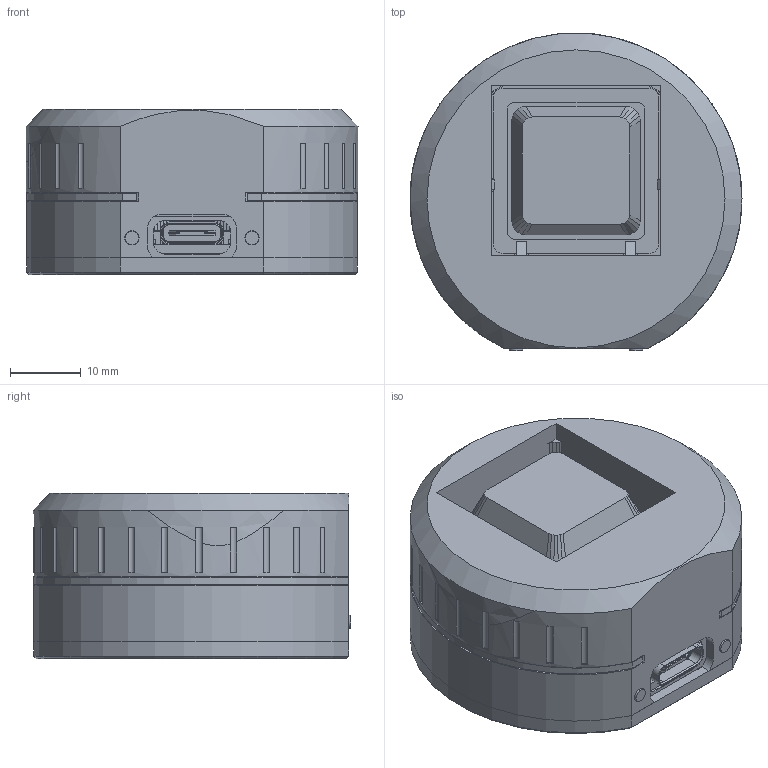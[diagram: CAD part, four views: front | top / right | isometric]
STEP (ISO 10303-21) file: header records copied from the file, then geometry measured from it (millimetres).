
FILE_DESCRIPTION(('Open CASCADE Model'),'2;1');
FILE_NAME('Open CASCADE Shape Model','2026-09-30T21:50:23',('Author'),( 'Open CASCADE'),'Open CASCADE STEP processor 7.9','Open CASCADE 7.9' ,'Unknown');
FILE_SCHEMA(('AUTOMOTIVE_DESIGN { 1 0 10303 214 1 1 1 1 }'));
Length unit declared in the file: millimetre
Products named in the file (13): 2cc97586-bd08-11f1-aefa-650008ae79c1; 01_shell; 02_base; 03_keycap; 04_halo; 05_belt_left; 05_belt_right; 07_xiao_wedge; 09_mx_snap_plate; 06_lightguide_left; 06_lightguide_right; XIAO_reference; antenna_envelope
Assembly tree (12 placements, depth 2):
  2cc97586-bd08-11f1-aefa-650008ae79c1
    01_shell
    02_base
    03_keycap
    04_halo
    05_belt_left
    05_belt_right
    07_xiao_wedge
    09_mx_snap_plate
    06_lightguide_left
    06_lightguide_right
    XIAO_reference
    antenna_envelope
Bounding box: 47 x 44.88 x 23.4 mm (x, y, z)
Volume: 18137.9 mm3; surface area: 21992.7 mm2
Topology: 48 solids, 53 shells, 1657 faces, 4351 edges, 2854 vertices
Faces by surface type: plane 1289, cylinder 284, bspline 51, cone 15, torus 12, sphere 6
Full cylindrical faces by diameter (mm): 0.5 x3, 0.6 x2, 0.75 x14, 1.524 x8, 1.72 x1, 1.86 x1, 1.9 x2, 2 x4, 3.4 x6, 5.8 x1
Entity records: 109769 total; most frequent: CARTESIAN_POINT 23159, DIRECTION 15507, LINE 10579, VECTOR 10579, ORIENTED_EDGE 8686, PCURVE 8686, DEFINITIONAL_REPRESENTATION 8686, EDGE_CURVE 4343
